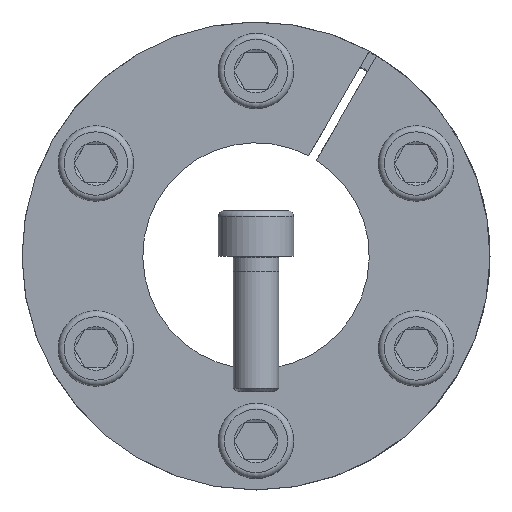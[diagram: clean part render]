
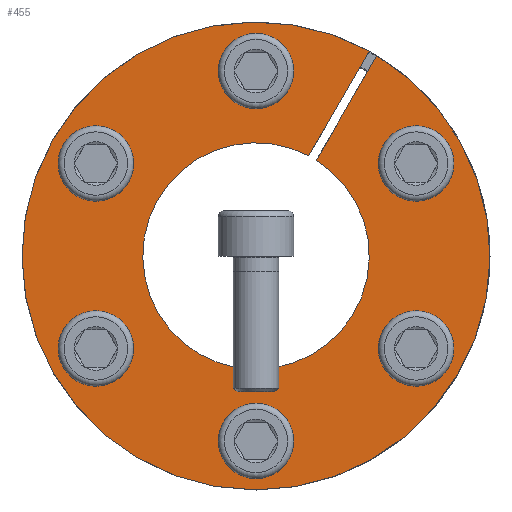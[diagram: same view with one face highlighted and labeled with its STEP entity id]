
A CAD part, front view. The second image highlights one B-rep face of the part: STEP entity #455.
In plain terms, the highlighted planar face has unit normal (0, -1, 0).
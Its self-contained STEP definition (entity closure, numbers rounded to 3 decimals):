
#455 = ADVANCED_FACE( '', ( #803, #804, #805, #806, #807, #808, #809 ), #810, .F. );
#803 = FACE_BOUND( '', #1243, .T. );
#804 = FACE_BOUND( '', #1244, .T. );
#805 = FACE_BOUND( '', #1245, .T. );
#806 = FACE_BOUND( '', #1246, .T. );
#807 = FACE_BOUND( '', #1247, .T. );
#808 = FACE_BOUND( '', #1248, .T. );
#809 = FACE_OUTER_BOUND( '', #1249, .T. );
#810 = PLANE( '', #1250 );
#1243 = EDGE_LOOP( '', ( #1794 ) );
#1244 = EDGE_LOOP( '', ( #1795 ) );
#1245 = EDGE_LOOP( '', ( #1796 ) );
#1246 = EDGE_LOOP( '', ( #1797 ) );
#1247 = EDGE_LOOP( '', ( #1798 ) );
#1248 = EDGE_LOOP( '', ( #1799 ) );
#1249 = EDGE_LOOP( '', ( #1800, #1801, #1802, #1803 ) );
#1250 = AXIS2_PLACEMENT_3D( '', #1804, #1805, #1806 );
#1794 = ORIENTED_EDGE( '', *, *, #2759, .T. );
#1795 = ORIENTED_EDGE( '', *, *, #2772, .T. );
#1796 = ORIENTED_EDGE( '', *, *, #2773, .T. );
#1797 = ORIENTED_EDGE( '', *, *, #2774, .T. );
#1798 = ORIENTED_EDGE( '', *, *, #2775, .T. );
#1799 = ORIENTED_EDGE( '', *, *, #2763, .T. );
#1800 = ORIENTED_EDGE( '', *, *, #2757, .T. );
#1801 = ORIENTED_EDGE( '', *, *, #2764, .T. );
#1802 = ORIENTED_EDGE( '', *, *, #2734, .T. );
#1803 = ORIENTED_EDGE( '', *, *, #2725, .F. );
#1804 = CARTESIAN_POINT( '', ( 0., 0., 31. ) );
#1805 = DIRECTION( '', ( 0., 1., 0. ) );
#1806 = DIRECTION( '', ( 0., 0., 1. ) );
#2725 = EDGE_CURVE( '', #3022, #3018, #3024, .T. );
#2734 = EDGE_CURVE( '', #3041, #3018, #3042, .T. );
#2757 = EDGE_CURVE( '', #3022, #3077, #3079, .T. );
#2759 = EDGE_CURVE( '', #3082, #3082, #3083, .T. );
#2763 = EDGE_CURVE( '', #3088, #3088, #3089, .T. );
#2764 = EDGE_CURVE( '', #3077, #3041, #3090, .T. );
#2772 = EDGE_CURVE( '', #3103, #3103, #3104, .T. );
#2773 = EDGE_CURVE( '', #3105, #3105, #3106, .T. );
#2774 = EDGE_CURVE( '', #3107, #3107, #3108, .T. );
#2775 = EDGE_CURVE( '', #3109, #3109, #3110, .T. );
#3018 = VERTEX_POINT( '', #3407 );
#3022 = VERTEX_POINT( '', #3412 );
#3024 = CIRCLE( '', #3415, 15. );
#3041 = VERTEX_POINT( '', #3440 );
#3042 = LINE( '', #3441, #3442 );
#3077 = VERTEX_POINT( '', #3506 );
#3079 = LINE( '', #3509, #3510 );
#3082 = VERTEX_POINT( '', #3513 );
#3083 = CIRCLE( '', #3514, 3. );
#3088 = VERTEX_POINT( '', #3519 );
#3089 = CIRCLE( '', #3520, 3. );
#3090 = CIRCLE( '', #3521, 31. );
#3103 = VERTEX_POINT( '', #3534 );
#3104 = CIRCLE( '', #3535, 3. );
#3105 = VERTEX_POINT( '', #3536 );
#3106 = CIRCLE( '', #3537, 3. );
#3107 = VERTEX_POINT( '', #3538 );
#3108 = CIRCLE( '', #3539, 3. );
#3109 = VERTEX_POINT( '', #3540 );
#3110 = CIRCLE( '', #3541, 3. );
#3407 = CARTESIAN_POINT( '', ( 8.002, 0., 12.688 ) );
#3412 = CARTESIAN_POINT( '', ( 6.987, 0., 13.273 ) );
#3415 = AXIS2_PLACEMENT_3D( '', #4132, #4133, #4134 );
#3440 = CARTESIAN_POINT( '', ( 16.004, 0., 26.549 ) );
#3441 = CARTESIAN_POINT( '', ( 16.007, 0., 26.554 ) );
#3442 = VECTOR( '', #4149, 1000. );
#3506 = CARTESIAN_POINT( '', ( 14.99, 0., 27.135 ) );
#3509 = CARTESIAN_POINT( '', ( 6.987, 0., 13.273 ) );
#3510 = VECTOR( '', #4174, 1000. );
#3513 = CARTESIAN_POINT( '', ( 3., 0., 24.5 ) );
#3514 = AXIS2_PLACEMENT_3D( '', #4178, #4179, #4180 );
#3519 = CARTESIAN_POINT( '', ( -19.718, 0., 14.848 ) );
#3520 = AXIS2_PLACEMENT_3D( '', #4190, #4191, #4192 );
#3521 = AXIS2_PLACEMENT_3D( '', #4193, #4194, #4195 );
#3534 = CARTESIAN_POINT( '', ( 22.718, 0., 9.652 ) );
#3535 = AXIS2_PLACEMENT_3D( '', #4217, #4218, #4219 );
#3536 = CARTESIAN_POINT( '', ( 19.718, 0., -14.848 ) );
#3537 = AXIS2_PLACEMENT_3D( '', #4220, #4221, #4222 );
#3538 = CARTESIAN_POINT( '', ( -3., 0., -24.5 ) );
#3539 = AXIS2_PLACEMENT_3D( '', #4223, #4224, #4225 );
#3540 = CARTESIAN_POINT( '', ( -22.718, 0., -9.652 ) );
#3541 = AXIS2_PLACEMENT_3D( '', #4226, #4227, #4228 );
#4132 = CARTESIAN_POINT( '', ( 0., 0., 0. ) );
#4133 = DIRECTION( '', ( 0., -1., 0. ) );
#4134 = DIRECTION( '', ( 0., 0., -1. ) );
#4149 = DIRECTION( '', ( -0.5, 0., -0.866 ) );
#4174 = DIRECTION( '', ( 0.5, 0., 0.866 ) );
#4178 = CARTESIAN_POINT( '', ( 0., 0., 24.5 ) );
#4179 = DIRECTION( '', ( 0., 1., 0. ) );
#4180 = DIRECTION( '', ( 1., 0., 0. ) );
#4190 = CARTESIAN_POINT( '', ( -21.218, 0., 12.25 ) );
#4191 = DIRECTION( '', ( 0., 1., 0. ) );
#4192 = DIRECTION( '', ( 0.5, 0., 0.866 ) );
#4193 = CARTESIAN_POINT( '', ( 0., 0., 0. ) );
#4194 = DIRECTION( '', ( 0., -1., 0. ) );
#4195 = DIRECTION( '', ( 0., 0., -1. ) );
#4217 = CARTESIAN_POINT( '', ( 21.218, 0., 12.25 ) );
#4218 = DIRECTION( '', ( 0., 1., 0. ) );
#4219 = DIRECTION( '', ( 0.5, 0., -0.866 ) );
#4220 = CARTESIAN_POINT( '', ( 21.218, 0., -12.25 ) );
#4221 = DIRECTION( '', ( 0., 1., 0. ) );
#4222 = DIRECTION( '', ( -0.5, 0., -0.866 ) );
#4223 = CARTESIAN_POINT( '', ( 0., 0., -24.5 ) );
#4224 = DIRECTION( '', ( 0., 1., 0. ) );
#4225 = DIRECTION( '', ( -1., 0., 0. ) );
#4226 = CARTESIAN_POINT( '', ( -21.218, 0., -12.25 ) );
#4227 = DIRECTION( '', ( 0., 1., 0. ) );
#4228 = DIRECTION( '', ( -0.5, 0., 0.866 ) );
